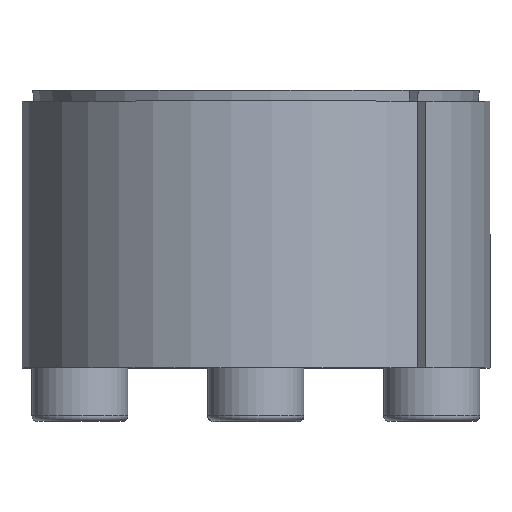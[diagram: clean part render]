
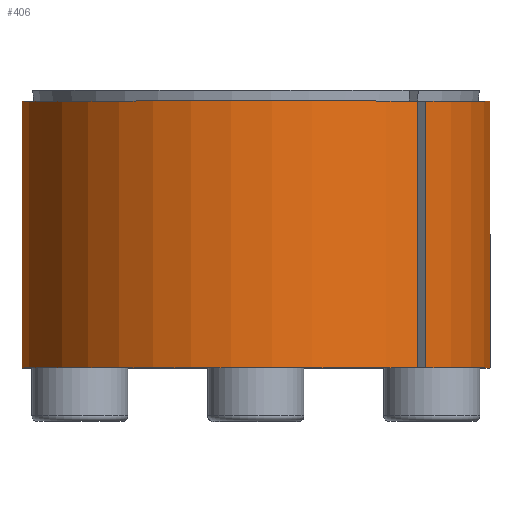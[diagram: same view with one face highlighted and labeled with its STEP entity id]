
A CAD part, top view. The second image highlights one B-rep face of the part: STEP entity #406.
In plain terms, the highlighted cylindrical face has radius 11 mm (diameter 22 mm), a partial arc.
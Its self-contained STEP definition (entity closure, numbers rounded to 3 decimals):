
#406 = ADVANCED_FACE( '', ( #684 ), #685, .T. );
#684 = FACE_OUTER_BOUND( '', #967, .T. );
#685 = CYLINDRICAL_SURFACE( '', #968, 11. );
#967 = EDGE_LOOP( '', ( #1319, #1320, #1321, #1322 ) );
#968 = AXIS2_PLACEMENT_3D( '', #1323, #1324, #1325 );
#1319 = ORIENTED_EDGE( '', *, *, #1943, .T. );
#1320 = ORIENTED_EDGE( '', *, *, #1947, .T. );
#1321 = ORIENTED_EDGE( '', *, *, #1938, .T. );
#1322 = ORIENTED_EDGE( '', *, *, #1928, .T. );
#1323 = CARTESIAN_POINT( '', ( 0., -60., 0. ) );
#1324 = DIRECTION( '', ( 0., -1., 0. ) );
#1325 = DIRECTION( '', ( 0., 0., 1. ) );
#1928 = EDGE_CURVE( '', #2140, #2138, #2141, .T. );
#1938 = EDGE_CURVE( '', #2158, #2140, #2159, .T. );
#1943 = EDGE_CURVE( '', #2138, #2164, #2166, .T. );
#1947 = EDGE_CURVE( '', #2164, #2158, #2171, .F. );
#2138 = VERTEX_POINT( '', #2375 );
#2140 = VERTEX_POINT( '', #2378 );
#2141 = LINE( '', #2379, #2380 );
#2158 = VERTEX_POINT( '', #2404 );
#2159 = CIRCLE( '', #2405, 11. );
#2164 = VERTEX_POINT( '', #2414 );
#2166 = CIRCLE( '', #2417, 11. );
#2171 = LINE( '', #2424, #2425 );
#2375 = CARTESIAN_POINT( '', ( 7.581, 6., 7.97 ) );
#2378 = CARTESIAN_POINT( '', ( 7.581, -6.5, 7.97 ) );
#2379 = CARTESIAN_POINT( '', ( 7.581, -60., 7.97 ) );
#2380 = VECTOR( '', #2761, 1000. );
#2404 = CARTESIAN_POINT( '', ( 7.97, -6.5, 7.581 ) );
#2405 = AXIS2_PLACEMENT_3D( '', #2781, #2782, #2783 );
#2414 = CARTESIAN_POINT( '', ( 7.97, 6., 7.581 ) );
#2417 = AXIS2_PLACEMENT_3D( '', #2789, #2790, #2791 );
#2424 = CARTESIAN_POINT( '', ( 7.97, -60., 7.581 ) );
#2425 = VECTOR( '', #2797, 1000. );
#2761 = DIRECTION( '', ( 0., 1., 0. ) );
#2781 = CARTESIAN_POINT( '', ( 0., -6.5, 0. ) );
#2782 = DIRECTION( '', ( 0., 1., 0. ) );
#2783 = DIRECTION( '', ( 0., 0., 1. ) );
#2789 = CARTESIAN_POINT( '', ( 0., 6., 0. ) );
#2790 = DIRECTION( '', ( 0., -1., 0. ) );
#2791 = DIRECTION( '', ( 0., 0., -1. ) );
#2797 = DIRECTION( '', ( 0., 1., 0. ) );
